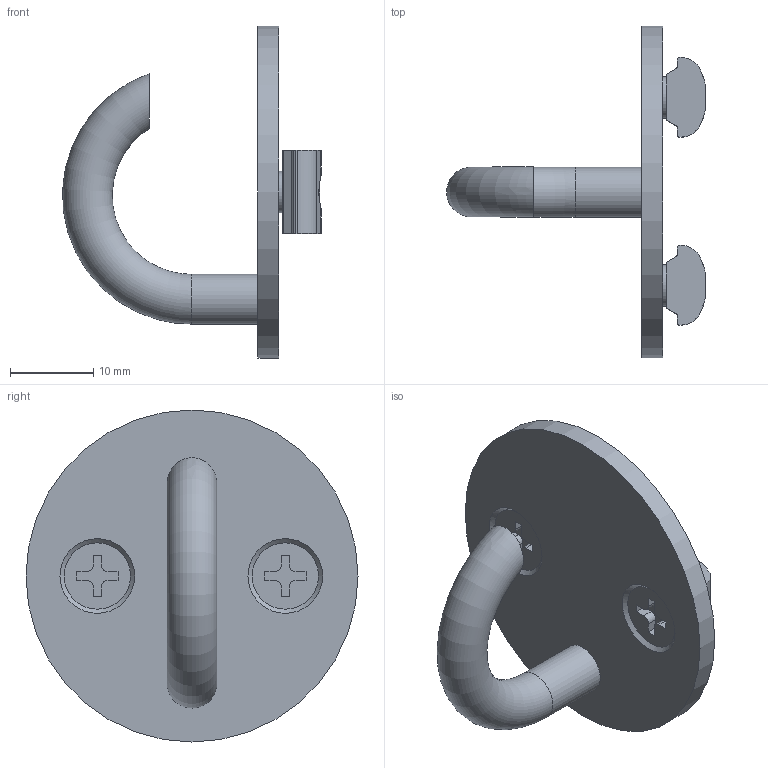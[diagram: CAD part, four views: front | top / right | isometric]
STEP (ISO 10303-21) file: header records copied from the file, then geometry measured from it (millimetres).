
FILE_DESCRIPTION(('STEP AP214'),'1');
FILE_NAME('ORI6-25B.stp','2017-02-01T11:55:58',(' '),(' '),'Spatial InterOp 3D',' ',' ');
FILE_SCHEMA(('automotive_design'));
Length unit declared in the file: millimetre
Products named in the file (6): ORI6-25B; ORI6-H; M5*10小頭皿ﾈｼﾞ; NF25-M5; M5*7小頭皿ﾈｼﾞ
Assembly tree (5 placements, depth 2):
  ORI6-25B
    ORI6-H
    M5*10小頭皿ﾈｼﾞ
    NF25-M5
    M5*7小頭皿ﾈｼﾞ
    NF25-M5
Bounding box: 31.18 x 40 x 40 mm (x, y, z)
Volume: 4991.1 mm3; surface area: 4836.3 mm2
Topology: 5 solids, 5 shells, 106 faces, 275 edges, 182 vertices
Faces by surface type: plane 61, cylinder 40, cone 4, torus 1
Full cylindrical faces by diameter (mm): 5 x4, 6 x3, 40 x1
Entity records: 4221 total; most frequent: CARTESIAN_POINT 649, DIRECTION 556, ORIENTED_EDGE 518, EDGE_CURVE 259, AXIS2_PLACEMENT_3D 194, VERTEX_POINT 179, LINE 168, VECTOR 168
